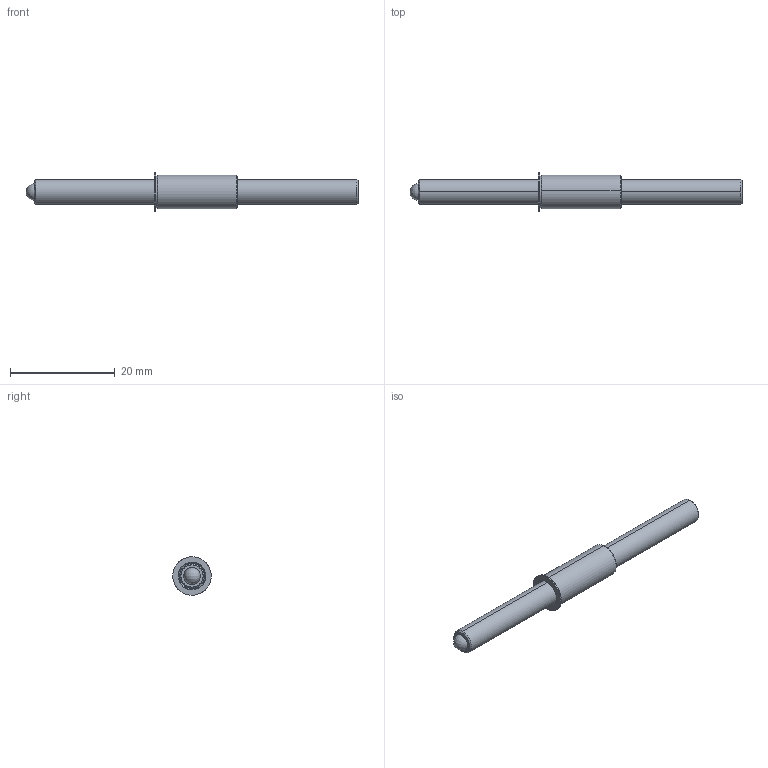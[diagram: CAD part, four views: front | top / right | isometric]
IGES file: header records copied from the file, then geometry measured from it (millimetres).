
Start section: SolidWorks IGES file using analytic representation for surfaces
Global section: file name: C:\Users\workpc\Desktop\KMA Solidworks\TSB187-100-2500_625.IGS; native system: SolidWorks 2013; preprocessor: SolidWorks 2013; author: workpc; date: 130313.094502; units: inch
Bounding box: 63.49 x 7.36 x 7.36 mm (x, y, z)
Surface area: 1362.2 mm2 (no closed solid volume)
Topology: 0 solids, 0 shells, 33 faces, 406 edges, 402 vertices
Faces by surface type: revolution 22, bspline 11
